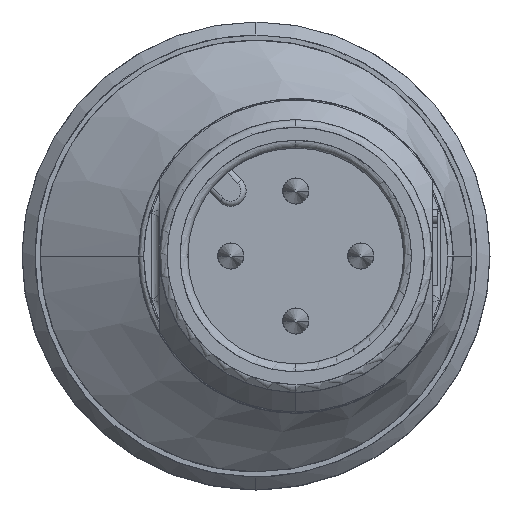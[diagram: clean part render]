
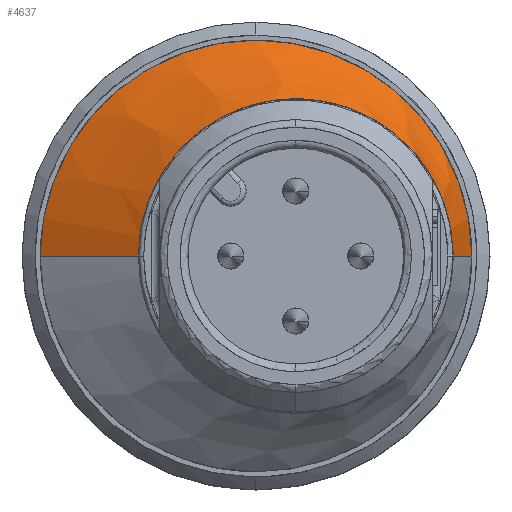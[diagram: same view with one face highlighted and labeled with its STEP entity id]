
A CAD part, left-side view. The second image highlights one B-rep face of the part: STEP entity #4637.
In plain terms, the highlighted free-form (B-spline) face has degree [3, 3] with [11, 4] control points.
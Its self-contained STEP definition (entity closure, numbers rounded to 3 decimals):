
#3948=CARTESIAN_POINT('',(-46.625,81.015,
-0.2));
#3949=CARTESIAN_POINT('',(-46.625,81.015,
0.011));
#3950=CARTESIAN_POINT('',(-46.629,81.037,
0.434));
#3951=CARTESIAN_POINT('',(-46.636,81.137,1.063));
#3952=CARTESIAN_POINT('',(-46.648,81.302,1.677));
#3953=CARTESIAN_POINT('',(-46.662,81.529,2.266));
#3954=CARTESIAN_POINT('',(-46.678,81.815,2.828));
#3955=CARTESIAN_POINT('',(-46.695,82.158,3.357));
#3956=CARTESIAN_POINT('',(-46.711,82.553,3.846));
#3957=CARTESIAN_POINT('',(-46.726,82.997,4.293));
#3958=CARTESIAN_POINT('',(-46.74,83.486,4.691));
#3959=CARTESIAN_POINT('',(-46.752,84.014,5.037));
#3960=CARTESIAN_POINT('',(-46.763,84.577,5.326));
#3961=CARTESIAN_POINT('',(-46.773,85.169,5.557));
#3962=CARTESIAN_POINT('',(-46.782,85.782,5.723));
#3963=CARTESIAN_POINT('',(-46.79,86.407,5.825));
#3964=CARTESIAN_POINT('',(-46.797,87.044,5.861));
#3965=CARTESIAN_POINT('',(-46.803,87.681,5.829));
#3966=CARTESIAN_POINT('',(-46.808,88.307,5.732));
#3967=CARTESIAN_POINT('',(-46.812,88.923,5.569));
#3968=CARTESIAN_POINT('',(-46.816,89.518,5.342));
#3969=CARTESIAN_POINT('',(-46.819,90.083,5.056));
#3970=CARTESIAN_POINT('',(-46.822,90.619,4.71));
#3971=CARTESIAN_POINT('',(-46.825,91.113,4.31));
#3972=CARTESIAN_POINT('',(-46.827,91.563,3.863));
#3973=CARTESIAN_POINT('',(-46.828,91.965,3.367));
#3974=CARTESIAN_POINT('',(-46.83,92.31,2.836));
#3975=CARTESIAN_POINT('',(-46.831,92.6,2.27));
#3976=CARTESIAN_POINT('',(-46.832,92.829,1.675));
#3977=CARTESIAN_POINT('',(-46.833,92.993,1.063));
#3978=CARTESIAN_POINT('',(-46.833,93.093,
0.434));
#3979=CARTESIAN_POINT('',(-46.833,93.115,
0.011));
#3980=CARTESIAN_POINT('',(-46.833,93.115,
-0.2));
#4000=CARTESIAN_POINT('',(-44.644,88.595,
-0.2));
#4001=DIRECTION('',(1.,0.,0.));
#4002=DIRECTION('',(0.,1.,0.));
#4003=AXIS2_PLACEMENT_3D('',#4000,#4001,#4002);
#4008=DIRECTION('',(-0.94,0.342,0.));
#4009=VECTOR('',#4008,2.108);
#4010=CARTESIAN_POINT('',(-44.645,80.294,
-0.2));
#4011=LINE('',#4010,#4009);
#4015=DIRECTION('',(-0.501,-0.865,0.));
#4016=VECTOR('',#4015,4.369);
#4017=CARTESIAN_POINT('',(-44.644,96.896,
-0.2));
#4018=LINE('',#4017,#4016);
#4489=CARTESIAN_POINT('',(-46.625,81.015,
-0.2));
#4490=VERTEX_POINT('',#4489);
#4491=CARTESIAN_POINT('',(-46.833,93.115,
-0.2));
#4492=VERTEX_POINT('',#4491);
#4493=CARTESIAN_POINT('',(-44.644,96.896,
-0.2));
#4495=VERTEX_POINT('',#4493);
#4497=CARTESIAN_POINT('',(-44.644,80.294,
-0.2));
#4498=VERTEX_POINT('',#4497);
#4583=CARTESIAN_POINT('',(-44.644,96.896,
-0.2));
#4584=CARTESIAN_POINT('',(-45.374,95.636,
-0.2));
#4585=CARTESIAN_POINT('',(-46.103,94.375,
-0.2));
#4586=CARTESIAN_POINT('',(-46.833,93.115,
-0.2));
#4587=CARTESIAN_POINT('',(-44.644,96.896,
0.887));
#4588=CARTESIAN_POINT('',(-45.374,95.636,
0.787));
#4589=CARTESIAN_POINT('',(-46.103,94.375,
0.687));
#4590=CARTESIAN_POINT('',(-46.833,93.115,
0.587));
#4591=CARTESIAN_POINT('',(-44.644,96.464,3.059));
#4592=CARTESIAN_POINT('',(-45.374,95.243,2.76));
#4593=CARTESIAN_POINT('',(-46.103,94.022,2.46));
#4594=CARTESIAN_POINT('',(-46.833,92.802,2.161));
#4595=CARTESIAN_POINT('',(-44.644,94.618,5.822));
#4596=CARTESIAN_POINT('',(-45.374,93.567,5.269));
#4597=CARTESIAN_POINT('',(-46.103,92.516,4.715));
#4598=CARTESIAN_POINT('',(-46.833,91.464,4.162));
#4599=CARTESIAN_POINT('',(-44.644,91.854,7.669));
#4600=CARTESIAN_POINT('',(-45.374,91.057,6.945));
#4601=CARTESIAN_POINT('',(-46.103,90.26,6.222));
#4602=CARTESIAN_POINT('',(-46.833,89.463,5.499));
#4603=CARTESIAN_POINT('',(-44.644,88.595,8.317));
#4604=CARTESIAN_POINT('',(-45.374,88.098,7.534));
#4605=CARTESIAN_POINT('',(-46.103,87.6,6.751));
#4606=CARTESIAN_POINT('',(-46.833,87.102,5.969));
#4607=CARTESIAN_POINT('',(-44.644,85.336,7.669));
#4608=CARTESIAN_POINT('',(-45.374,85.138,6.945));
#4609=CARTESIAN_POINT('',(-46.103,84.94,6.222));
#4610=CARTESIAN_POINT('',(-46.833,84.742,5.499));
#4611=CARTESIAN_POINT('',(-44.644,82.572,5.822));
#4612=CARTESIAN_POINT('',(-45.374,82.628,5.269));
#4613=CARTESIAN_POINT('',(-46.103,82.684,4.715));
#4614=CARTESIAN_POINT('',(-46.833,82.74,4.162));
#4615=CARTESIAN_POINT('',(-44.644,80.726,3.059));
#4616=CARTESIAN_POINT('',(-45.374,80.952,2.76));
#4617=CARTESIAN_POINT('',(-46.103,81.177,2.46));
#4618=CARTESIAN_POINT('',(-46.833,81.403,2.161));
#4619=CARTESIAN_POINT('',(-44.644,80.294,
0.887));
#4620=CARTESIAN_POINT('',(-45.374,80.559,
0.787));
#4621=CARTESIAN_POINT('',(-46.103,80.825,
0.687));
#4622=CARTESIAN_POINT('',(-46.833,81.09,
0.587));
#4623=CARTESIAN_POINT('',(-44.644,80.294,
-0.2));
#4624=CARTESIAN_POINT('',(-45.374,80.559,
-0.2));
#4625=CARTESIAN_POINT('',(-46.103,80.825,
-0.2));
#4626=CARTESIAN_POINT('',(-46.833,81.09,
-0.2));
#4627=B_SPLINE_SURFACE_WITH_KNOTS('',3,3,((#4583,#4584,#4585,#4586),(#4587,
#4588,#4589,#4590),(#4591,#4592,#4593,#4594),(#4595,#4596,#4597,#4598),(#4599,
#4600,#4601,#4602),(#4603,#4604,#4605,#4606),(#4607,#4608,#4609,#4610),(#4611,
#4612,#4613,#4614),(#4615,#4616,#4617,#4618),(#4619,#4620,#4621,#4622),(#4623,
#4624,#4625,#4626)),.UNSPECIFIED.,.F.,.F.,.F.,(4,1,1,1,1,1,1,1,4),(4,4),(
0.,0.125,0.25,0.375,
0.5,0.625,0.75,0.875,
1.),(0.,0.995),.UNSPECIFIED.);
#4629=ORIENTED_EDGE('',*,*,#4628,.T.);
#4631=ORIENTED_EDGE('',*,*,#4630,.T.);
#4632=ORIENTED_EDGE('',*,*,#4575,.T.);
#4634=ORIENTED_EDGE('',*,*,#4633,.F.);
#4635=EDGE_LOOP('',(#4629,#4631,#4632,#4634));
#4636=FACE_OUTER_BOUND('',#4635,.F.);
#4637=ADVANCED_FACE('',(#4636),#4627,.F.);
#3981=B_SPLINE_CURVE_WITH_KNOTS('',3,(#3948,#3949,#3950,#3951,#3952,#3953,#3954,
#3955,#3956,#3957,#3958,#3959,#3960,#3961,#3962,#3963,#3964,#3965,#3966,#3967,
#3968,#3969,#3970,#3971,#3972,#3973,#3974,#3975,#3976,#3977,#3978,#3979,#3980),
.UNSPECIFIED.,.F.,.F.,(4,1,1,1,1,1,1,1,1,1,1,1,1,1,1,1,1,1,1,1,1,1,1,1,1,1,1,1,
1,1,4),(0.,0.033,0.067,0.1,0.133,
0.167,0.2,0.233,0.267,0.3,
0.333,0.367,0.4,0.433,0.467,
0.5,0.533,0.567,0.6,0.633,
0.667,0.7,0.733,0.767,0.8,
0.833,0.867,0.9,0.933,0.967,
1.),.UNSPECIFIED.);
#4004=CIRCLE('',#4003,8.301);
#4575=EDGE_CURVE('',#4490,#4492,#3981,.T.);
#4628=EDGE_CURVE('',#4495,#4498,#4004,.T.);
#4630=EDGE_CURVE('',#4498,#4490,#4011,.T.);
#4633=EDGE_CURVE('',#4495,#4492,#4018,.T.);
